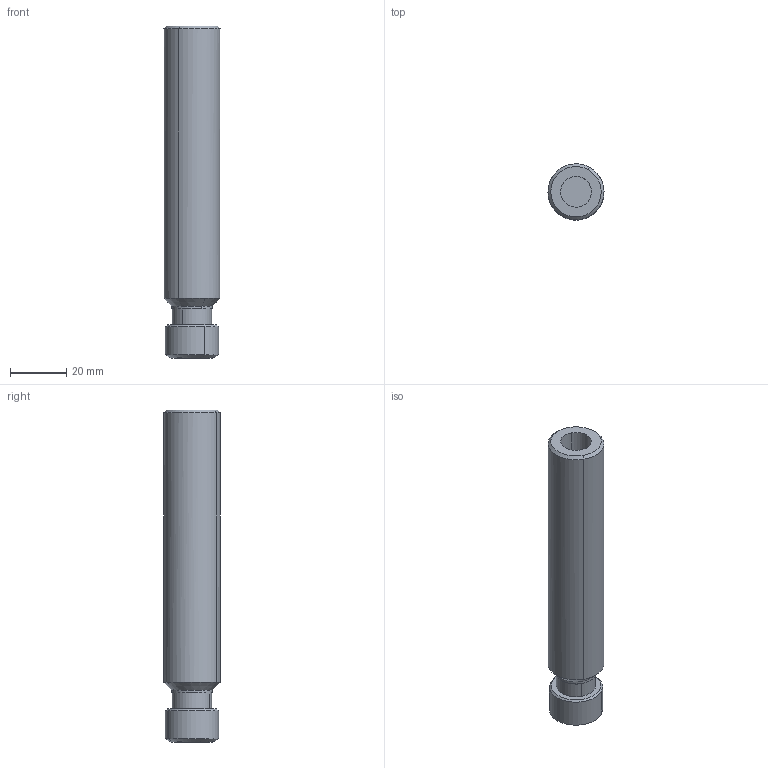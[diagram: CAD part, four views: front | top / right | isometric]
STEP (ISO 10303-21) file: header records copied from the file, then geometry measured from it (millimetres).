
FILE_DESCRIPTION(('CATIA V5 STEP','CAx-IF Rec.Pracs.--- Model Styling and Organization---1.2---2011-12-15'),'2;1');
FILE_NAME('\\nas01\drv1\utils\eitdev\rte\eit\transmagicconvert\db\out\635958785231639854\4507007 LM.stp','2016-04-10T06:48:57+00:00',('none'),('none'),'CATIA Version 5 Release 21 SP 5 (IN-10)','CATIA V5 STEP AP214','none');
FILE_SCHEMA(('AUTOMOTIVE_DESIGN { 1 0 10303 214 1 1 1 1 }'));
Length unit declared in the file: millimetre
Products named in the file (1): ST 20X100 ER11
Bounding box: 19.99 x 20 x 118.5 mm (x, y, z)
Volume: 32060.6 mm3; surface area: 9274.3 mm2
Topology: 1 solids, 1 shells, 37 faces, 76 edges, 46 vertices
Faces by surface type: cylinder 14, cone 12, plane 7, extrusion 2, torus 2
Entity records: 1007 total; most frequent: CARTESIAN_POINT 260, ORIENTED_EDGE 152, DIRECTION 122, EDGE_CURVE 76, AXIS2_PLACEMENT_3D 69, VERTEX_POINT 46, CIRCLE 44, EDGE_LOOP 42
